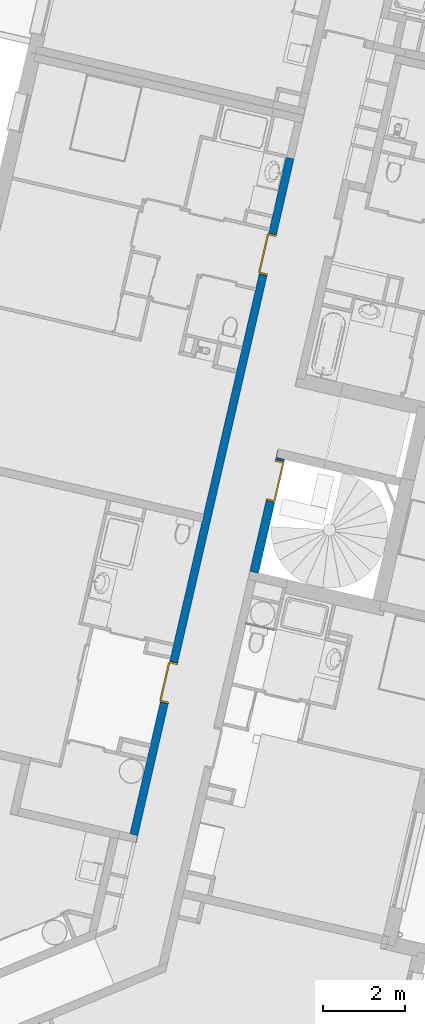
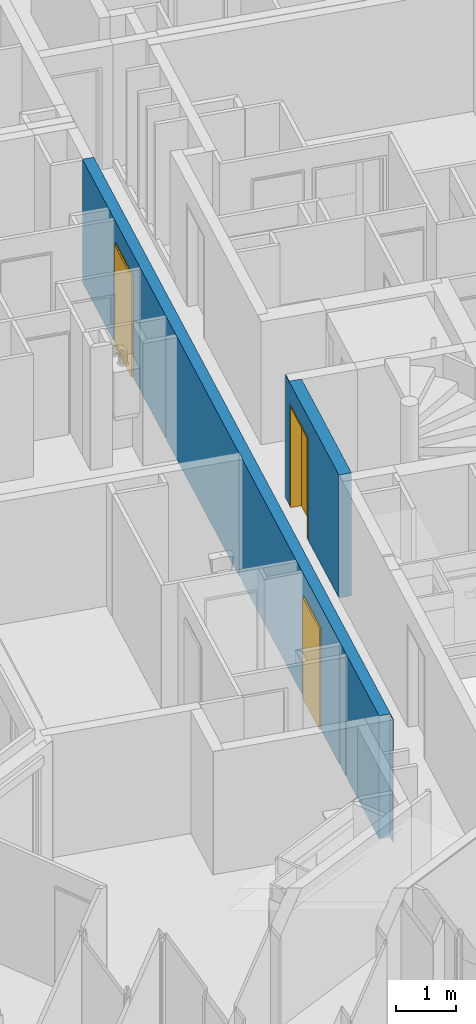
# One storey, part 20 of 91: 3 doors, 2 walls, 3 openings.
"""IFC2X3 building model written with IfcOpenShell, lengths in metres."""

from ifc_helpers import new_model, entity, si_unit, converted_unit, derived_unit, money_unit, direction, frame, origin_with_axes, place, context, subcontext, project, spatial, faceted_brep, source, transform, mapped, material, material_list, type_object, element, fill, save


model = new_model("IFC2X3")

# Units and contexts
model_context = context("Model", 3, precision=1e-05, world=origin_with_axes(), true_north=direction((0.0, 1.0)))
body_context = subcontext(model_context, "Body", "Model", "MODEL_VIEW")
ifc_project = project(units=[si_unit("LENGTHUNIT", "METRE"), si_unit("AREAUNIT", "SQUARE_METRE"), si_unit("VOLUMEUNIT", "CUBIC_METRE"), converted_unit("PLANEANGLEUNIT", "DEGREE", entity("IfcPlaneAngleMeasure", 0.0174532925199), si_unit("PLANEANGLEUNIT", "RADIAN"), dimensions=[0, 0, 0, 0, 0, 0, 0]), si_unit("SOLIDANGLEUNIT", "STERADIAN"), money_unit("EUR"), converted_unit("TIMEUNIT", "Year", entity("IfcTimeMeasure", 31556926.0), si_unit("TIMEUNIT", "SECOND"), dimensions=[0, 0, 1, 0, 0, 0, 0]), si_unit("MASSUNIT", "GRAM", prefix="KILO"), si_unit("THERMODYNAMICTEMPERATUREUNIT", "DEGREE_CELSIUS"), si_unit("LUMINOUSINTENSITYUNIT", "LUMEN"), si_unit("ENERGYUNIT", "JOULE", prefix="MEGA"), derived_unit("THERMALCONDUCTANCEUNIT", [(si_unit("POWERUNIT", "WATT"), 1), (si_unit("LENGTHUNIT", "METRE"), -1), (si_unit("THERMODYNAMICTEMPERATUREUNIT", "KELVIN"), -1)]), derived_unit("SPECIFICHEATCAPACITYUNIT", [(si_unit("ENERGYUNIT", "JOULE"), 1), (si_unit("MASSUNIT", "GRAM", prefix="KILO"), -1), (si_unit("THERMODYNAMICTEMPERATUREUNIT", "KELVIN"), -1)]), derived_unit("MASSDENSITYUNIT", [(si_unit("MASSUNIT", "GRAM", prefix="KILO"), 1), (si_unit("VOLUMEUNIT", "CUBIC_METRE"), -1)])], contexts=[model_context])

# Site, building, storey
site_placement = place(None, origin_with_axes())
site = spatial("IfcSite", under=ifc_project, at=site_placement, Name="Site", CompositionType="ELEMENT")
building_placement = place(site_placement, origin_with_axes())
building = spatial("IfcBuilding", under=site, at=building_placement, Name="Bâtiment", CompositionType="ELEMENT")
storey_placement = place(building_placement, frame((0.0, 0.0, 5.44), z_axis=(0.0, 0.0, 1.0), x_axis=(1.0, 0.0, 0.0)))
storey = spatial("IfcBuildingStorey", under=building, at=storey_placement, Name="R+2", CompositionType="ELEMENT", Elevation=5.44)

# Wall, openings, doors
ifc_material_1 = material(Name="Finition int - Enduit plâtre")
ifc_material_2 = material(Name="Béton")
ifc_material_list = material_list([ifc_material_1, ifc_material_2, ifc_material_1])
wall_type_1 = type_object("IfcWallType", Name="2 - Murs Béton 18 + Enduit 2 Faces 200", PredefinedType="USERDEFINED")
wall_1_placement = place(storey_placement, frame((-10.404385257, 1.37535274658, 0.0), z_axis=(0.0, 0.0, 1.0), x_axis=(-0.22487619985, -0.974387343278, 0.0)))
wall_1 = element("IfcWall", 1, at=wall_1_placement, inside=storey, type_object=wall_type_1, material=ifc_material_list, Name="M_Ext-009", ObjectType="SOLIDWALL", context=body_context, shape_type="Brep", body=[
    faceted_brep([(2.92382101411, 0.01, 0.0), (2.92382101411, 0.01, 2.085), (1.90382101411, 0.01, 2.085), (1.90382101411, 0.01, 0.0), (0.0, 0.01, 0.0), (0.0, 0.01, 2.51), (17.1471355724, 0.01, 2.51), (17.1471355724, 0.01, 0.150000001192), (17.1471355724, 0.01, 0.0), (13.6591355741, 0.01, 0.0), (13.6591355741, 0.01, 2.085), (12.6391355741, 0.01, 2.085), (12.6391355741, 0.01, 0.0), (2.92382101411, 0.0, 0.0), (2.92382101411, 0.0, 2.085), (1.90382101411, 0.0, 2.085), (1.90382101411, 0.0, 0.0), (0.0, 0.0, 0.0), (0.0, 0.0, 2.51), (17.1471355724, 0.0, 2.51), (17.1471355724, 0.0, 0.150000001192), (17.1471355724, 0.0, 0.0), (13.6591355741, 0.0, 0.0), (13.6591355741, 0.0, 2.085), (12.6391355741, 0.0, 2.085), (12.6391355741, 0.0, 0.0)], [[[0, 1, 2, 3, 4, 5, 6, 7, 8, 9, 10, 11, 12]], [[1, 0, 13, 14]], [[2, 1, 14, 15]], [[3, 2, 15, 16]], [[3, 16, 17, 4]], [[4, 17, 18, 5]], [[18, 19, 6, 5]], [[20, 7, 6, 19]], [[8, 7, 20, 21]], [[9, 8, 21, 22]], [[9, 22, 23, 10]], [[10, 23, 24, 11]], [[11, 24, 25, 12]], [[13, 0, 12, 25]], [[14, 13, 25, 24, 23, 22, 21, 20, 19, 18, 17, 16, 15]]]),
    faceted_brep([(2.92382101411, 0.0, 0.0), (2.92382101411, 0.0, 2.085), (1.90382101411, 0.0, 2.085), (1.90382101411, 0.0, 0.0), (0.0, 0.0, 0.0), (0.0, 0.0, 2.51), (16.9671355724, 0.0, 2.51), (16.9671355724, 0.0, 0.0), (13.6591355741, 0.0, 0.0), (13.6591355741, 0.0, 2.085), (12.6391355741, 0.0, 2.085), (12.6391355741, 0.0, 0.0), (2.92382101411, -0.18, 0.0), (2.92382101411, -0.18, 2.085), (1.90382101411, -0.18, 2.085), (1.90382101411, -0.18, 0.0), (0.0, -0.18, 0.0), (0.0, -0.18, 2.51), (16.9671355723, -0.18, 2.51), (16.9671355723, -0.18, 0.0), (13.6591355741, -0.18, 0.0), (13.6591355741, -0.18, 2.085), (12.6391355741, -0.18, 2.085), (12.6391355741, -0.18, 0.0)], [[[0, 1, 2, 3, 4, 5, 6, 7, 8, 9, 10, 11]], [[1, 0, 12, 13]], [[2, 1, 13, 14]], [[3, 2, 14, 15]], [[3, 15, 16, 4]], [[4, 16, 17, 5]], [[17, 18, 6, 5]], [[19, 7, 6, 18]], [[8, 7, 19, 20]], [[8, 20, 21, 9]], [[9, 21, 22, 10]], [[10, 22, 23, 11]], [[12, 0, 11, 23]], [[13, 12, 23, 22, 21, 20, 19, 18, 17, 16, 15, 14]]]),
    faceted_brep([(13.6591355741, -0.18, 0.0), (13.6591355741, -0.18, 2.085), (12.6391355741, -0.18, 2.085), (12.6391355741, -0.18, 0.0), (9.13713557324, -0.18, 0.0), (9.13713557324, -0.18, 2.51), (16.9571355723, -0.18, 2.51), (16.9571355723, -0.18, 0.0), (15.1571355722, -0.18, 0.0), (15.1571355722, -0.18, 2.5), (15.0571355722, -0.18, 2.5), (15.0571355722, -0.18, 0.0), (14.8091355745, -0.18, 0.0), (14.8091355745, -0.18, 2.5), (14.7091355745, -0.18, 2.5), (14.7091355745, -0.18, 0.0), (13.6591355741, -0.19, 0.0), (13.6591355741, -0.19, 2.085), (12.6391355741, -0.19, 2.085), (12.6391355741, -0.19, 0.0), (9.13713557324, -0.19, 0.0), (9.13713557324, -0.19, 2.51), (16.9571355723, -0.19, 2.51), (16.9571355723, -0.19, 0.0), (15.1571355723, -0.19, 0.0), (15.1571355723, -0.19, 2.5), (15.0571355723, -0.19, 2.5), (15.0571355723, -0.19, 0.0), (14.8091355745, -0.19, 0.0), (14.8091355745, -0.19, 2.5), (14.7091355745, -0.19, 2.5), (14.7091355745, -0.19, 0.0)], [[[0, 1, 2, 3, 4, 5, 6, 7, 8, 9, 10, 11, 12, 13, 14, 15]], [[1, 0, 16, 17]], [[2, 1, 17, 18]], [[3, 2, 18, 19]], [[3, 19, 20, 4]], [[5, 4, 20, 21]], [[5, 21, 22, 6]], [[22, 23, 7, 6]], [[24, 8, 7, 23]], [[9, 8, 24, 25]], [[9, 25, 26, 10]], [[11, 10, 26, 27]], [[28, 12, 11, 27]], [[13, 12, 28, 29]], [[13, 29, 30, 14]], [[15, 14, 30, 31]], [[16, 0, 15, 31]], [[17, 16, 31, 30, 29, 28, 27, 26, 25, 24, 23, 22, 21, 20, 19, 18]]]),
    faceted_brep([(2.92382101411, -0.18, 0.0), (2.92382101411, -0.18, 2.085), (1.90382101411, -0.18, 2.085), (1.90382101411, -0.18, 0.0), (1.84846721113, -0.18, 0.0), (1.84846721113, -0.18, 2.5), (1.77446721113, -0.18, 2.5), (1.77446721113, -0.18, 0.0), (0.0, -0.18, 0.0), (0.0, -0.18, 2.51), (8.95713557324, -0.18, 2.51), (8.95713557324, -0.18, 0.0), (4.82184246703, -0.18, 0.0), (4.82184246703, -0.18, 2.5), (4.74784246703, -0.18, 2.5), (4.74784246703, -0.18, 0.0), (3.34784246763, -0.18, 0.0), (3.34784246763, -0.18, 2.5), (3.27384246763, -0.18, 2.5), (3.27384246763, -0.18, 0.0), (2.92382101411, -0.19, 0.0), (2.92382101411, -0.19, 2.085), (1.90382101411, -0.19, 2.085), (1.90382101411, -0.19, 0.0), (1.84846721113, -0.19, 0.0), (1.84846721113, -0.19, 2.5), (1.77446721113, -0.19, 2.5), (1.77446721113, -0.19, 0.0), (0.0, -0.19, 0.0), (0.0, -0.19, 2.51), (8.95713557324, -0.19, 2.51), (8.95713557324, -0.19, 0.0), (4.82184246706, -0.19, 0.0), (4.82184246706, -0.19, 2.5), (4.74784246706, -0.19, 2.5), (4.74784246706, -0.19, 0.0), (3.34784246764, -0.19, 0.0), (3.34784246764, -0.19, 2.5), (3.27384246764, -0.19, 2.5), (3.27384246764, -0.19, 0.0)], [[[0, 1, 2, 3, 4, 5, 6, 7, 8, 9, 10, 11, 12, 13, 14, 15, 16, 17, 18, 19]], [[1, 0, 20, 21]], [[2, 1, 21, 22]], [[3, 2, 22, 23]], [[3, 23, 24, 4]], [[5, 4, 24, 25]], [[5, 25, 26, 6]], [[7, 6, 26, 27]], [[7, 27, 28, 8]], [[9, 8, 28, 29]], [[9, 29, 30, 10]], [[30, 31, 11, 10]], [[32, 12, 11, 31]], [[13, 12, 32, 33]], [[13, 33, 34, 14]], [[15, 14, 34, 35]], [[15, 35, 36, 16]], [[17, 16, 36, 37]], [[17, 37, 38, 18]], [[19, 18, 38, 39]], [[20, 0, 19, 39]], [[21, 20, 39, 38, 37, 36, 35, 34, 33, 32, 31, 30, 29, 28, 27, 26, 25, 24, 23, 22]]]),
])
opening_1_placement = place(wall_1_placement, frame((13.1491355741, 0.0, 0.0), z_axis=(0.0, 0.0, 1.0), x_axis=(1.0, 0.0, 0.0)))
opening_1 = element("IfcOpeningElement", 2, at=opening_1_placement, cuts=wall_1, Name="Porte 93x204 bois blindée", context=body_context, shape_type="Brep", body=[
    faceted_brep([(-0.51, 0.2, 0.0), (0.51, 0.2, 0.0), (0.51, -0.2, 0.0), (-0.51, -0.2, 0.0), (-0.51, 0.2, 2.085), (0.51, 0.2, 2.085), (0.51, -0.2, 2.085), (-0.51, -0.2, 2.085)], [[[0, 1, 2, 3]], [[0, 4, 5, 1]], [[1, 5, 6, 2]], [[3, 2, 6, 7]], [[4, 0, 3, 7]], [[5, 4, 7, 6]]]),
])
opening_2_placement = place(wall_1_placement, frame((2.41382101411, 0.0, 0.0), z_axis=(0.0, 0.0, 1.0), x_axis=(1.0, 0.0, 0.0)))
opening_2 = element("IfcOpeningElement", 3, at=opening_2_placement, cuts=wall_1, Name="Porte 93x204 bois blindée", context=body_context, shape_type="Brep", body=[
    faceted_brep([(-0.51, 0.2, 0.0), (0.51, 0.2, 0.0), (0.51, -0.2, 0.0), (-0.51, -0.2, 0.0), (-0.51, 0.2, 2.085), (0.51, 0.2, 2.085), (0.51, -0.2, 2.085), (-0.51, -0.2, 2.085)], [[[0, 1, 2, 3]], [[0, 4, 5, 1]], [[1, 5, 6, 2]], [[3, 2, 6, 7]], [[4, 0, 3, 7]], [[5, 4, 7, 6]]]),
])
door_style_1 = type_object("IfcDoorStyle", Name="Porte int générique 2019", ConstructionType="NOTDEFINED", OperationType="SINGLE_SWING_RIGHT", ParameterTakesPrecedence=False, Sizeable=False)
shared_shape_1 = source(origin_with_axes(), body_context, "Body", "Brep", [
    faceted_brep([(0.51, 0.0, 0.0), (0.48, 0.0, 0.0), (0.48, 0.0, 2.055), (-0.48, 0.0, 2.055), (-0.48, 0.0, 0.0), (-0.51, 0.0, 0.0), (-0.51, 0.0, 2.085), (0.51, 0.0, 2.085), (0.51, -0.2, 0.0), (0.465, -0.2, 0.0), (0.465, -0.015, 0.0), (0.48, -0.015, 0.0), (0.48, -0.015, 2.055), (-0.48, -0.015, 2.055), (-0.48, -0.015, 0.0), (-0.465, -0.015, 0.0), (-0.465, -0.2, 0.0), (-0.51, -0.2, 0.0), (-0.51, -0.2, 2.085), (0.51, -0.2, 2.085), (-0.465, -0.2, 2.04), (0.465, -0.2, 2.04), (0.465, -0.015, 2.04), (-0.465, -0.015, 2.04)], [[[0, 1, 2, 3, 4, 5, 6, 7]], [[0, 8, 9, 10, 11, 1]], [[1, 11, 12, 2]], [[2, 12, 13, 3]], [[3, 13, 14, 4]], [[5, 4, 14, 15, 16, 17]], [[18, 6, 5, 17]], [[19, 7, 6, 18]], [[8, 0, 7, 19]], [[9, 8, 19, 18, 17, 16, 20, 21]], [[10, 9, 21, 22]], [[11, 10, 22, 23, 15, 14, 13, 12]], [[23, 20, 16, 15]], [[22, 21, 20, 23]]]),
    faceted_brep([(0.48, 0.025, 0.0), (0.48, -0.015, 0.0), (-0.48, -0.015, 0.0), (-0.48, 0.025, 0.0), (0.48, 0.025, 2.055), (0.48, -0.015, 2.055), (-0.48, -0.015, 2.055), (-0.48, 0.025, 2.055)], [[[0, 1, 2, 3]], [[4, 5, 1, 0]], [[1, 5, 6, 2]], [[3, 2, 6, 7]], [[0, 3, 7, 4]], [[7, 6, 5, 4]]]),
])
door_1_placement = place(opening_1_placement, frame((0.465, 0.0, 0.0), z_axis=(0.0, 0.0, 1.0), x_axis=(-1.0, 0.0, 0.0)))
door_1 = element("IfcDoor", 4, at=door_1_placement, inside=storey, type_object=door_style_1, Name="Porte 93x204 bois blindée", ObjectType="DOOR", OverallHeight=2.04, OverallWidth=0.93, context=body_context, shape_type="MappedRepresentation", body=[
    mapped(shared_shape_1, transform((0.465, 0.19, 0.0))),
])
fill(opening_1, door_1)
door_2_placement = place(opening_2_placement, frame((0.465, 0.0, 0.0), z_axis=(0.0, 0.0, 1.0), x_axis=(-1.0, 0.0, 0.0)))
door_2 = element("IfcDoor", 5, at=door_2_placement, inside=storey, type_object=door_style_1, Name="Porte 93x204 bois blindée", ObjectType="DOOR", OverallHeight=2.04, OverallWidth=0.93, context=body_context, shape_type="MappedRepresentation", body=[
    mapped(shared_shape_1, transform((0.465, 0.19, 0.0))),
])
fill(opening_2, door_2)

# Wall, opening, door
wall_type_2 = type_object("IfcWallType", Name="2 - Murs Béton 20 + Enduit 2 Faces  220", PredefinedType="USERDEFINED")
wall_2_placement = place(storey_placement, frame((-10.7747392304, -5.7212996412, 0.0), z_axis=(0.0, 0.0, 1.0), x_axis=(-0.224876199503, -0.974387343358, 0.0)))
wall_2 = element("IfcWall", 6, at=wall_2_placement, inside=storey, type_object=wall_type_2, material=ifc_material_list, Name="M_Ext-009", ObjectType="SOLIDWALL", context=body_context, shape_type="Brep", body=[
    faceted_brep([(1.28000000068, 0.205, 0.0), (1.28000000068, 0.205, 2.085), (0.260000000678, 0.205, 2.085), (0.260000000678, 0.205, 0.0), (0.210000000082, 0.205, 0.0), (0.210000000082, 0.205, 2.51), (3.05000000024, 0.205, 2.51), (3.05000000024, 0.205, 0.0), (1.28000000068, 0.195, 0.0), (1.28000000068, 0.195, 2.085), (0.260000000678, 0.195, 2.085), (0.260000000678, 0.195, 0.0), (0.210000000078, 0.195, 0.0), (0.210000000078, 0.195, 2.51), (3.05000000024, 0.195, 2.51), (3.05000000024, 0.195, 0.0)], [[[0, 1, 2, 3, 4, 5, 6, 7]], [[1, 0, 8, 9]], [[2, 1, 9, 10]], [[3, 2, 10, 11]], [[3, 11, 12, 4]], [[4, 12, 13, 5]], [[6, 5, 13, 14]], [[7, 6, 14, 15]], [[8, 0, 7, 15]], [[9, 8, 15, 14, 13, 12, 11, 10]]]),
    faceted_brep([(1.28000000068, 0.195, 0.0), (1.28000000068, 0.195, 2.085), (0.260000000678, 0.195, 2.085), (0.260000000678, 0.195, 0.0), (0.200000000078, 0.195, 0.0), (0.200000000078, 0.195, 2.51), (3.06000000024, 0.195, 2.51), (3.06000000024, 0.195, 0.0), (1.28000000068, -0.005, 0.0), (1.28000000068, -0.005, 2.085), (0.260000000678, -0.005, 2.085), (0.260000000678, -0.005, 0.0), (0.199999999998, -0.005, 0.0), (0.199999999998, -0.005, 2.51), (3.06000000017, -0.005, 2.51), (3.06000000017, -0.005, 0.0)], [[[0, 1, 2, 3, 4, 5, 6, 7]], [[1, 0, 8, 9]], [[2, 1, 9, 10]], [[3, 2, 10, 11]], [[3, 11, 12, 4]], [[4, 12, 13, 5]], [[6, 5, 13, 14]], [[7, 6, 14, 15]], [[8, 0, 7, 15]], [[9, 8, 15, 14, 13, 12, 11, 10]]]),
    faceted_brep([(1.28000000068, -0.005, 0.0), (1.28000000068, -0.005, 2.085), (0.260000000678, -0.005, 2.085), (0.260000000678, -0.005, 0.0), (0.0, -0.005, 0.0), (0.0, -0.005, 2.51), (3.05000000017, -0.005, 2.51), (3.05000000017, -0.005, 0.0), (1.28000000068, -0.015, 0.0), (1.28000000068, -0.015, 2.085), (0.260000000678, -0.015, 2.085), (0.260000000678, -0.015, 0.0), (0.0, -0.015, 0.0), (0.0, -0.015, 2.51), (3.05000000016, -0.015, 2.51), (3.05000000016, -0.015, 0.0)], [[[0, 1, 2, 3, 4, 5, 6, 7]], [[1, 0, 8, 9]], [[2, 1, 9, 10]], [[3, 2, 10, 11]], [[3, 11, 12, 4]], [[4, 12, 13, 5]], [[6, 5, 13, 14]], [[7, 6, 14, 15]], [[8, 0, 7, 15]], [[9, 8, 15, 14, 13, 12, 11, 10]]]),
])
opening_3_placement = place(wall_2_placement, frame((0.770000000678, 0.0, 0.0), z_axis=(0.0, 0.0, 1.0), x_axis=(1.0, 0.0, 0.0)))
opening_3 = element("IfcOpeningElement", 7, at=opening_3_placement, cuts=wall_2, Name="Porte 93x204 bois CF", context=body_context, shape_type="Brep", body=[
    faceted_brep([(-0.51, 0.22, 0.0), (0.51, 0.22, 0.0), (0.51, -0.22, 0.0), (-0.51, -0.22, 0.0), (-0.51, 0.22, 2.085), (0.51, 0.22, 2.085), (0.51, -0.22, 2.085), (-0.51, -0.22, 2.085)], [[[0, 1, 2, 3]], [[0, 4, 5, 1]], [[1, 5, 6, 2]], [[3, 2, 6, 7]], [[4, 0, 3, 7]], [[5, 4, 7, 6]]]),
])
door_style_2 = type_object("IfcDoorStyle", Name="Porte int générique 2019", ConstructionType="NOTDEFINED", OperationType="SINGLE_SWING_LEFT", ParameterTakesPrecedence=False, Sizeable=False)
shared_shape_2 = source(origin_with_axes(), body_context, "Body", "Brep", [
    faceted_brep([(-0.51, 0.0, 0.0), (-0.51, 0.0, 2.085), (0.51, 0.0, 2.085), (0.51, 0.0, 0.0), (0.48, 0.0, 0.0), (0.48, 0.0, 2.055), (-0.48, 0.0, 2.055), (-0.48, 0.0, 0.0), (-0.51, -0.2, 0.0), (-0.51, -0.2, 2.085), (0.51, -0.2, 2.085), (0.51, -0.2, 0.0), (0.465, -0.2, 0.0), (0.465, -0.015, 0.0), (0.48, -0.015, 0.0), (0.48, -0.015, 2.055), (-0.48, -0.015, 2.055), (-0.48, -0.015, 0.0), (-0.465, -0.015, 0.0), (-0.465, -0.2, 0.0), (-0.465, -0.2, 2.04), (0.465, -0.2, 2.04), (0.465, -0.015, 2.04), (-0.465, -0.015, 2.04)], [[[0, 1, 2, 3, 4, 5, 6, 7]], [[8, 9, 1, 0]], [[9, 10, 2, 1]], [[10, 11, 3, 2]], [[3, 11, 12, 13, 14, 4]], [[5, 4, 14, 15]], [[6, 5, 15, 16]], [[7, 6, 16, 17]], [[0, 7, 17, 18, 19, 8]], [[19, 20, 21, 12, 11, 10, 9, 8]], [[22, 13, 12, 21]], [[17, 16, 15, 14, 13, 22, 23, 18]], [[18, 23, 20, 19]], [[23, 22, 21, 20]]]),
    faceted_brep([(-0.48, 0.025, 0.0), (0.48, 0.025, 0.0), (0.48, -0.015, 0.0), (-0.48, -0.015, 0.0), (-0.48, 0.025, 2.055), (0.48, 0.025, 2.055), (0.48, -0.015, 2.055), (-0.48, -0.015, 2.055)], [[[0, 1, 2, 3]], [[0, 4, 5, 1]], [[1, 5, 6, 2]], [[3, 2, 6, 7]], [[4, 0, 3, 7]], [[5, 4, 7, 6]]]),
])
door_3_placement = place(opening_3_placement, frame((-0.465, 0.0, 0.0), z_axis=(0.0, 0.0, 1.0), x_axis=(1.0, 0.0, 0.0)))
door_3 = element("IfcDoor", 8, at=door_3_placement, inside=storey, type_object=door_style_2, Name="Porte 93x204 bois CF", ObjectType="DOOR", OverallHeight=2.04, OverallWidth=0.93, context=body_context, shape_type="MappedRepresentation", body=[
    mapped(shared_shape_2, transform((0.465, 0.185, 0.0))),
])
fill(opening_3, door_3)

save(model, "model.ifc")
